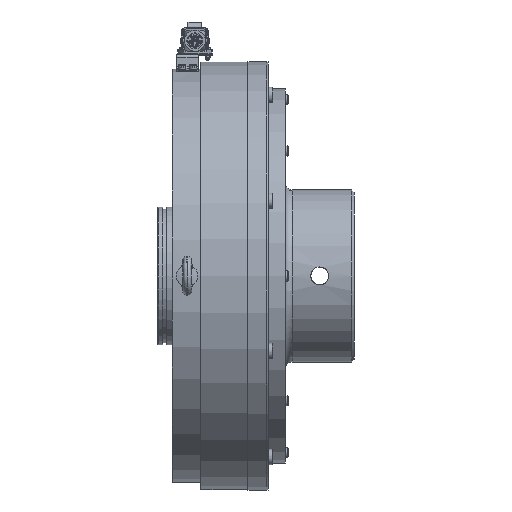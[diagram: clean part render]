
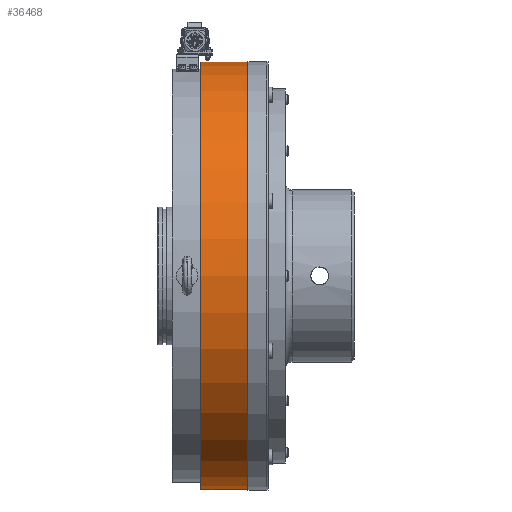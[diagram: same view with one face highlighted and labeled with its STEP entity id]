
A CAD part, front view. The second image highlights one B-rep face of the part: STEP entity #36468.
In plain terms, the highlighted cylindrical face has radius 248 mm (diameter 496 mm), a full revolution.
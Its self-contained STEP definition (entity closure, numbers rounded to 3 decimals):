
#3413=FACE_OUTER_BOUND('',#5506,.T.);
#5506=EDGE_LOOP('',(#29992,#29993,#29994,#29995,#29996,#29997));
#7146=CIRCLE('',#39386,248.);
#7147=CIRCLE('',#39387,248.);
#7174=CIRCLE('',#39422,248.);
#7175=CIRCLE('',#39423,248.);
#10435=LINE('',#60797,#13351);
#13351=VECTOR('',#48089,248.);
#16325=VERTEX_POINT('',#60724);
#16326=VERTEX_POINT('',#60725);
#16353=VERTEX_POINT('',#60792);
#16354=VERTEX_POINT('',#60793);
#21046=EDGE_CURVE('',#16325,#16326,#7146,.T.);
#21047=EDGE_CURVE('',#16326,#16325,#7147,.T.);
#21078=EDGE_CURVE('',#16353,#16354,#7174,.T.);
#21079=EDGE_CURVE('',#16354,#16353,#7175,.T.);
#21080=EDGE_CURVE('',#16326,#16354,#10435,.T.);
#29992=ORIENTED_EDGE('',*,*,#21046,.F.);
#29993=ORIENTED_EDGE('',*,*,#21047,.F.);
#29994=ORIENTED_EDGE('',*,*,#21080,.T.);
#29995=ORIENTED_EDGE('',*,*,#21079,.T.);
#29996=ORIENTED_EDGE('',*,*,#21078,.T.);
#29997=ORIENTED_EDGE('',*,*,#21080,.F.);
#33058=CYLINDRICAL_SURFACE('',#39424,248.);
#36468=ADVANCED_FACE('',(#3413),#33058,.T.);
#39386=AXIS2_PLACEMENT_3D('',#60726,#48007,#48008);
#39387=AXIS2_PLACEMENT_3D('',#60727,#48009,#48010);
#39422=AXIS2_PLACEMENT_3D('',#60794,#48083,#48084);
#39423=AXIS2_PLACEMENT_3D('',#60795,#48085,#48086);
#39424=AXIS2_PLACEMENT_3D('',#60796,#48087,#48088);
#48007=DIRECTION('center_axis',(1.,0.,0.));
#48008=DIRECTION('ref_axis',(0.,-1.,0.));
#48009=DIRECTION('center_axis',(1.,0.,0.));
#48010=DIRECTION('ref_axis',(0.,-1.,0.));
#48083=DIRECTION('center_axis',(1.,0.,0.));
#48084=DIRECTION('ref_axis',(0.,-1.,0.));
#48085=DIRECTION('center_axis',(1.,0.,0.));
#48086=DIRECTION('ref_axis',(0.,-1.,0.));
#48087=DIRECTION('center_axis',(1.,0.,0.));
#48088=DIRECTION('ref_axis',(0.,-1.,0.));
#48089=DIRECTION('',(-1.,0.,0.));
#60724=CARTESIAN_POINT('',(55.5,-248.,0.));
#60725=CARTESIAN_POINT('',(55.5,248.,0.));
#60726=CARTESIAN_POINT('Origin',(55.5,0.,
0.));
#60727=CARTESIAN_POINT('Origin',(55.5,0.,
0.));
#60792=CARTESIAN_POINT('',(1.5,-248.,0.));
#60793=CARTESIAN_POINT('',(1.5,248.,0.));
#60794=CARTESIAN_POINT('Origin',(1.5,0.,0.));
#60795=CARTESIAN_POINT('Origin',(1.5,0.,0.));
#60796=CARTESIAN_POINT('Origin',(28.5,0.,0.));
#60797=CARTESIAN_POINT('',(28.5,248.,0.));
